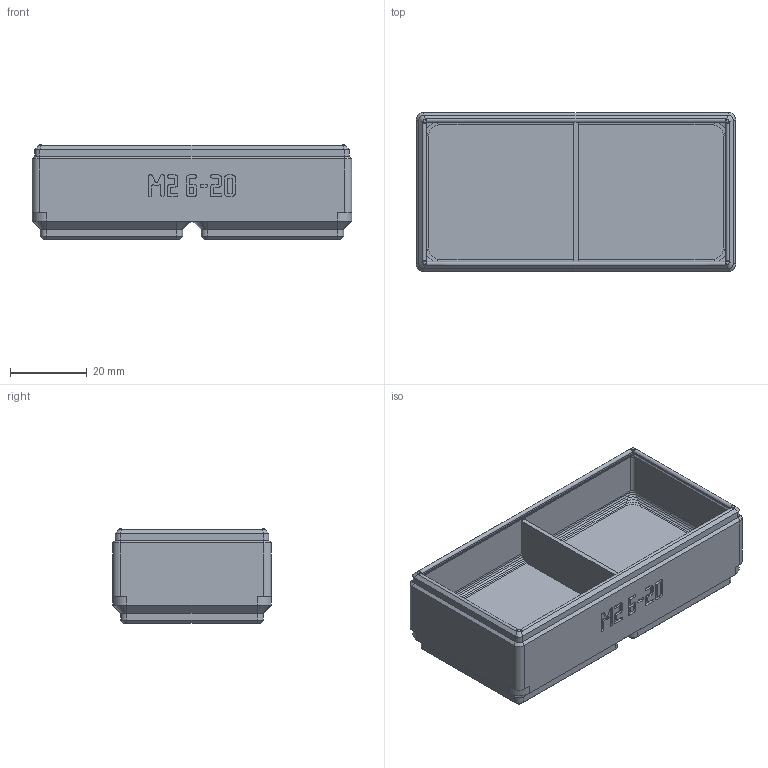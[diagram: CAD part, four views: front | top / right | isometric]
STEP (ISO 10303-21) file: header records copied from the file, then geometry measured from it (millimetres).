
FILE_DESCRIPTION(('Open CASCADE Model'),'2;1');
FILE_NAME('Open CASCADE Shape Model','2026-11-03T14:04:40',('Author'),( 'Open CASCADE'),'Open CASCADE STEP processor 8.0','build123d', 'Unknown');
FILE_SCHEMA(('AUTOMOTIVE_DESIGN { 1 0 10303 214 1 1 1 1 }'));
Products named in the file (1): SOLID
Bounding box: 83.5 x 41.5 x 24.7 mm (x, y, z)
Volume: 25322 mm3; surface area: 24282.4 mm2
Topology: 1 solids, 1 shells, 817 faces, 2253 edges, 1446 vertices
Faces by surface type: plane 657, bspline 104, cylinder 36, cone 20
Entity records: 58588 total; most frequent: CARTESIAN_POINT 14721, DIRECTION 7617, LINE 5933, VECTOR 5933, ORIENTED_EDGE 4506, PCURVE 4506, DEFINITIONAL_REPRESENTATION 4506, EDGE_CURVE 2253
